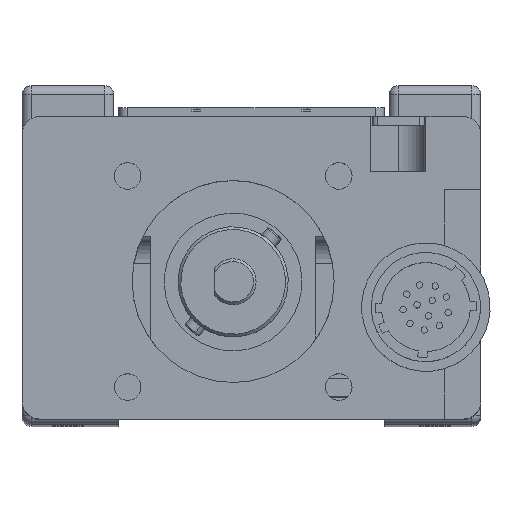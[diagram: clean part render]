
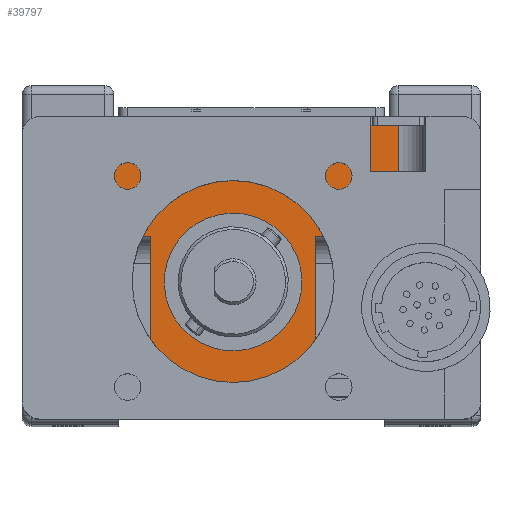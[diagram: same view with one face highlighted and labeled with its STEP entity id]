
A CAD part, top view. The second image highlights one B-rep face of the part: STEP entity #39797.
In plain terms, the highlighted planar face has unit normal (0, 0, 1).
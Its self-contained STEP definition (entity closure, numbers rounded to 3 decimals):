
#442 = AXIS2_PLACEMENT_3D ( 'NONE', #77989, #46322, #39050 ) ;
#495 = ORIENTED_EDGE ( 'NONE', *, *, #63208, .T. ) ;
#580 = CARTESIAN_POINT ( 'NONE',  ( -16., 20.5, 142. ) ) ;
#1443 = EDGE_CURVE ( 'NONE', #7921, #62639, #79402, .T. ) ;
#1655 = DIRECTION ( 'NONE',  ( 0., 0., -1. ) ) ;
#1745 = EDGE_CURVE ( 'NONE', #71890, #71792, #33121, .T. ) ;
#2017 = CIRCLE ( 'NONE', #73108, 11. ) ;
#2584 = DIRECTION ( 'NONE',  ( 0., -1., 0. ) ) ;
#5616 = EDGE_CURVE ( 'NONE', #44970, #62639, #53608, .T. ) ;
#6606 = DIRECTION ( 'NONE',  ( 1., 0., 0. ) ) ;
#7345 = FACE_OUTER_BOUND ( 'NONE', #77921, .T. ) ;
#7661 = DIRECTION ( 'NONE',  ( 1., 0., 0. ) ) ;
#7921 = VERTEX_POINT ( 'NONE', #30994 ) ;
#12545 = AXIS2_PLACEMENT_3D ( 'NONE', #19785, #53624, #78013 ) ;
#13641 = CARTESIAN_POINT ( 'NONE',  ( 16., 32.5, 142. ) ) ;
#15217 = AXIS2_PLACEMENT_3D ( 'NONE', #24473, #37759, #50592 ) ;
#17878 = VERTEX_POINT ( 'NONE', #83513 ) ;
#19785 = CARTESIAN_POINT ( 'NONE',  ( -2., 15.5, 142. ) ) ;
#20344 = VECTOR ( 'NONE', #72328, 1000. ) ;
#20724 = CARTESIAN_POINT ( 'NONE',  ( -11., 20.5, 142. ) ) ;
#24473 = CARTESIAN_POINT ( 'NONE',  ( -2., 15.5, 142. ) ) ;
#25158 = CARTESIAN_POINT ( 'NONE',  ( -11., 20.5, 142. ) ) ;
#25986 = VERTEX_POINT ( 'NONE', #64714 ) ;
#28500 = ORIENTED_EDGE ( 'NONE', *, *, #48716, .F. ) ;
#30712 = VERTEX_POINT ( 'NONE', #76209 ) ;
#30994 = CARTESIAN_POINT ( 'NONE',  ( -11., 9.175, 142. ) ) ;
#32521 = DIRECTION ( 'NONE',  ( 1., 0., 0. ) ) ;
#33121 = CIRCLE ( 'NONE', #12545, 7.5 ) ;
#35408 = VECTOR ( 'NONE', #40043, 1000. ) ;
#37759 = DIRECTION ( 'NONE',  ( 0., 0., -1. ) ) ;
#38937 = EDGE_CURVE ( 'NONE', #82287, #80571, #83923, .T. ) ;
#39050 = DIRECTION ( 'NONE',  ( -1., 0., 0. ) ) ;
#39175 = LINE ( 'NONE', #72540, #69688 ) ;
#39477 = FACE_BOUND ( 'NONE', #43419, .T. ) ;
#39797 = ADVANCED_FACE ( 'NONE', ( #39477, #7345 ), #58331, .F. ) ;
#40043 = DIRECTION ( 'NONE',  ( 0., 1., 0. ) ) ;
#41050 = ORIENTED_EDGE ( 'NONE', *, *, #45428, .T. ) ;
#43419 = EDGE_LOOP ( 'NONE', ( #83996, #41050 ) ) ;
#44039 = CARTESIAN_POINT ( 'NONE',  ( -16., 32.5, 142. ) ) ;
#44273 = EDGE_CURVE ( 'NONE', #25986, #30712, #77969, .T. ) ;
#44970 = VERTEX_POINT ( 'NONE', #580 ) ;
#45428 = EDGE_CURVE ( 'NONE', #71792, #71890, #52149, .T. ) ;
#46322 = DIRECTION ( 'NONE',  ( 0., 0., -1. ) ) ;
#48716 = EDGE_CURVE ( 'NONE', #30712, #7921, #2017, .T. ) ;
#50592 = DIRECTION ( 'NONE',  ( -1., 0., 0. ) ) ;
#52149 = CIRCLE ( 'NONE', #15217, 7.5 ) ;
#52293 = VECTOR ( 'NONE', #32521, 1000. ) ;
#52750 = CARTESIAN_POINT ( 'NONE',  ( -2., 20.5, 142. ) ) ;
#53608 = LINE ( 'NONE', #52750, #77516 ) ;
#53624 = DIRECTION ( 'NONE',  ( 0., 0., -1. ) ) ;
#55464 = ORIENTED_EDGE ( 'NONE', *, *, #62408, .F. ) ;
#56223 = ORIENTED_EDGE ( 'NONE', *, *, #38937, .F. ) ;
#58331 = PLANE ( 'NONE',  #442 ) ;
#58457 = DIRECTION ( 'NONE',  ( 0., 1., 0. ) ) ;
#58478 = LINE ( 'NONE', #78999, #35408 ) ;
#60338 = CARTESIAN_POINT ( 'NONE',  ( -2., 15.5, 142. ) ) ;
#61742 = VECTOR ( 'NONE', #58457, 1000. ) ;
#62408 = EDGE_CURVE ( 'NONE', #44970, #82287, #65078, .T. ) ;
#62639 = VERTEX_POINT ( 'NONE', #25158 ) ;
#63208 = EDGE_CURVE ( 'NONE', #25986, #17878, #39175, .T. ) ;
#64317 = ORIENTED_EDGE ( 'NONE', *, *, #44273, .F. ) ;
#64714 = CARTESIAN_POINT ( 'NONE',  ( 7., 20.5, 142. ) ) ;
#64917 = CARTESIAN_POINT ( 'NONE',  ( 4.928, 18.373, 142. ) ) ;
#65078 = LINE ( 'NONE', #72760, #20344 ) ;
#66651 = ORIENTED_EDGE ( 'NONE', *, *, #1443, .F. ) ;
#69688 = VECTOR ( 'NONE', #6606, 1000. ) ;
#71792 = VERTEX_POINT ( 'NONE', #64917 ) ;
#71890 = VERTEX_POINT ( 'NONE', #76940 ) ;
#72328 = DIRECTION ( 'NONE',  ( 0., 1., 0. ) ) ;
#72540 = CARTESIAN_POINT ( 'NONE',  ( -2., 20.5, 142. ) ) ;
#72760 = CARTESIAN_POINT ( 'NONE',  ( -16., 13.5, 142. ) ) ;
#73108 = AXIS2_PLACEMENT_3D ( 'NONE', #60338, #1655, #7661 ) ;
#73350 = ORIENTED_EDGE ( 'NONE', *, *, #5616, .T. ) ;
#76209 = CARTESIAN_POINT ( 'NONE',  ( 7., 9.175, 142. ) ) ;
#76940 = CARTESIAN_POINT ( 'NONE',  ( -8.928, 12.627, 142. ) ) ;
#77413 = CARTESIAN_POINT ( 'NONE',  ( 16., 32.5, 142. ) ) ;
#77516 = VECTOR ( 'NONE', #79729, 1000. ) ;
#77921 = EDGE_LOOP ( 'NONE', ( #56223, #55464, #73350, #66651, #28500, #64317, #495, #81209 ) ) ;
#77969 = LINE ( 'NONE', #81393, #80710 ) ;
#77989 = CARTESIAN_POINT ( 'NONE',  ( 16., 13.5, 142. ) ) ;
#78013 = DIRECTION ( 'NONE',  ( -1., 0., 0. ) ) ;
#78999 = CARTESIAN_POINT ( 'NONE',  ( 16., 13.5, 142. ) ) ;
#79402 = LINE ( 'NONE', #20724, #61742 ) ;
#79729 = DIRECTION ( 'NONE',  ( 1., 0., 0. ) ) ;
#80571 = VERTEX_POINT ( 'NONE', #77413 ) ;
#80710 = VECTOR ( 'NONE', #2584, 1000. ) ;
#81209 = ORIENTED_EDGE ( 'NONE', *, *, #82867, .T. ) ;
#81393 = CARTESIAN_POINT ( 'NONE',  ( 7., 20.5, 142. ) ) ;
#82287 = VERTEX_POINT ( 'NONE', #44039 ) ;
#82867 = EDGE_CURVE ( 'NONE', #17878, #80571, #58478, .T. ) ;
#83513 = CARTESIAN_POINT ( 'NONE',  ( 16., 20.5, 142. ) ) ;
#83923 = LINE ( 'NONE', #13641, #52293 ) ;
#83996 = ORIENTED_EDGE ( 'NONE', *, *, #1745, .T. ) ;
